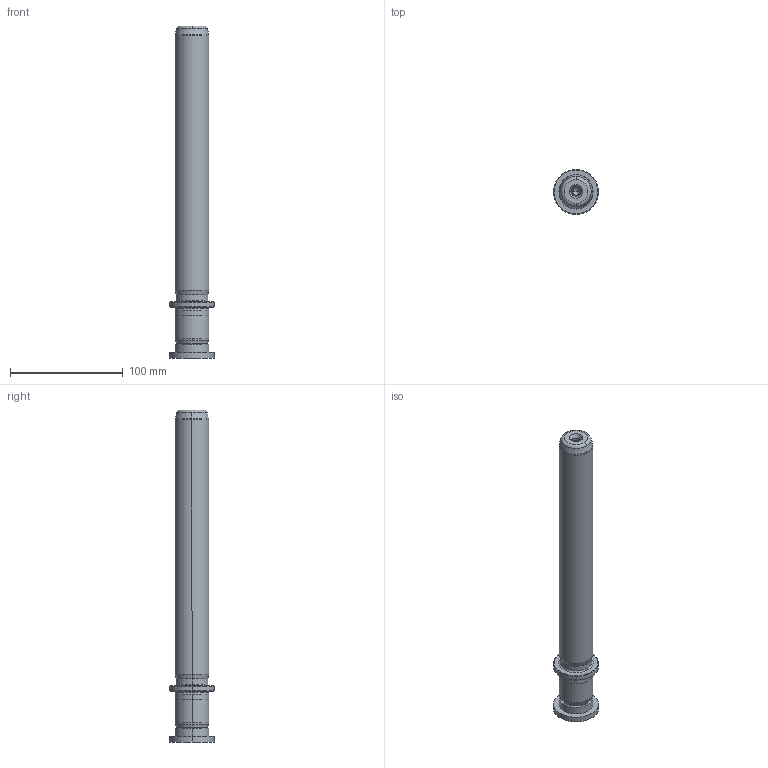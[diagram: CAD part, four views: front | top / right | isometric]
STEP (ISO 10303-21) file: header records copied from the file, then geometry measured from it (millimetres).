
FILE_DESCRIPTION((''),'2;1');
FILE_NAME('P22_030_250.stp','2009-02-03T10:22:03',(''),(''),'Mechanical Desktop 2009','Mechanical Desktop 2009',', , ');
FILE_SCHEMA(('CONFIG_CONTROL_DESIGN'));
Length unit declared in the file: millimetre
Products named in the file (2): Product; blmdl1
Assembly tree (1 placements, depth 2):
  Product
    blmdl1
Bounding box: 40 x 40 x 295 mm (x, y, z)
Volume: 209535.8 mm3; surface area: 35213.4 mm2
Topology: 3 solids, 3 shells, 99 faces, 237 edges, 149 vertices
Faces by surface type: cylinder 32, cone 28, plane 19, torus 10, bspline 10
Entity records: 3419 total; most frequent: CARTESIAN_POINT 923, DIRECTION 570, ORIENTED_EDGE 466, AXIS2_PLACEMENT_3D 246, EDGE_CURVE 233, CIRCLE 155, VERTEX_POINT 149, EDGE_LOOP 110
